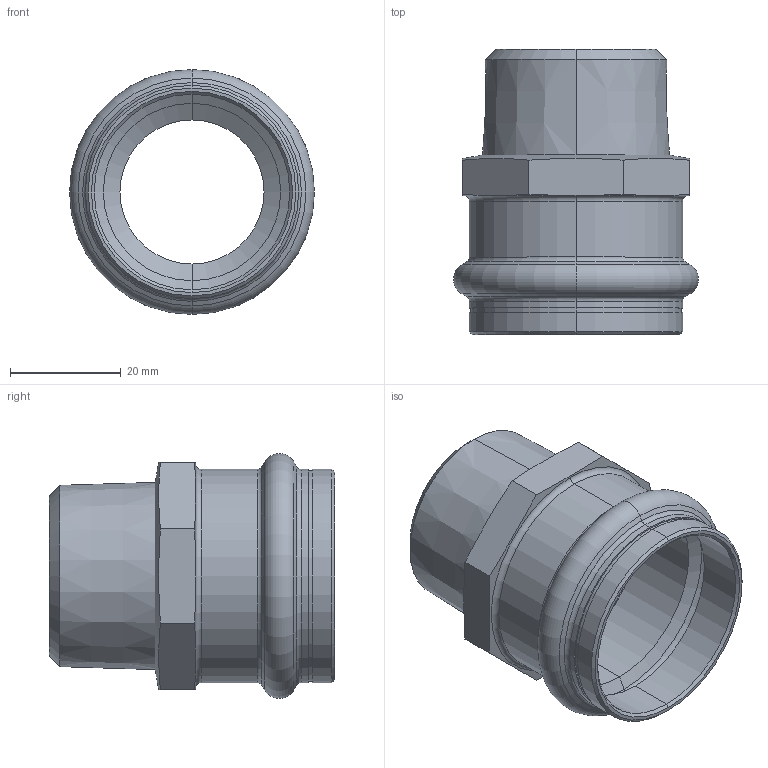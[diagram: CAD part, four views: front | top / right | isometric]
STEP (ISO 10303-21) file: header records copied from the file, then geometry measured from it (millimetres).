
FILE_DESCRIPTION (( 'STEP AP203' ), '1' );
FILE_NAME ('SP4243G Ø35 1.STEP', '2017-04-26T07:51:34', ( '' ), ( '' ), 'SwSTEP 2.0', 'SolidWorks 2016', '' );
FILE_SCHEMA (( 'CONFIG_CONTROL_DESIGN' ));
Length unit declared in the file: millimetre
Products named in the file (1): SP4243G ﾘ35 1
Bounding box: 44.2 x 51.5 x 44.2 mm (x, y, z)
Volume: 16089.6 mm3; surface area: 13162.1 mm2
Topology: 1 solids, 1 shells, 61 faces, 132 edges, 76 vertices
Faces by surface type: cone 22, cylinder 16, plane 13, torus 10
Entity records: 1769 total; most frequent: CARTESIAN_POINT 354, DIRECTION 302, ORIENTED_EDGE 264, EDGE_CURVE 132, AXIS2_PLACEMENT_3D 128, VERTEX_POINT 76, CIRCLE 66, EDGE_LOOP 66
